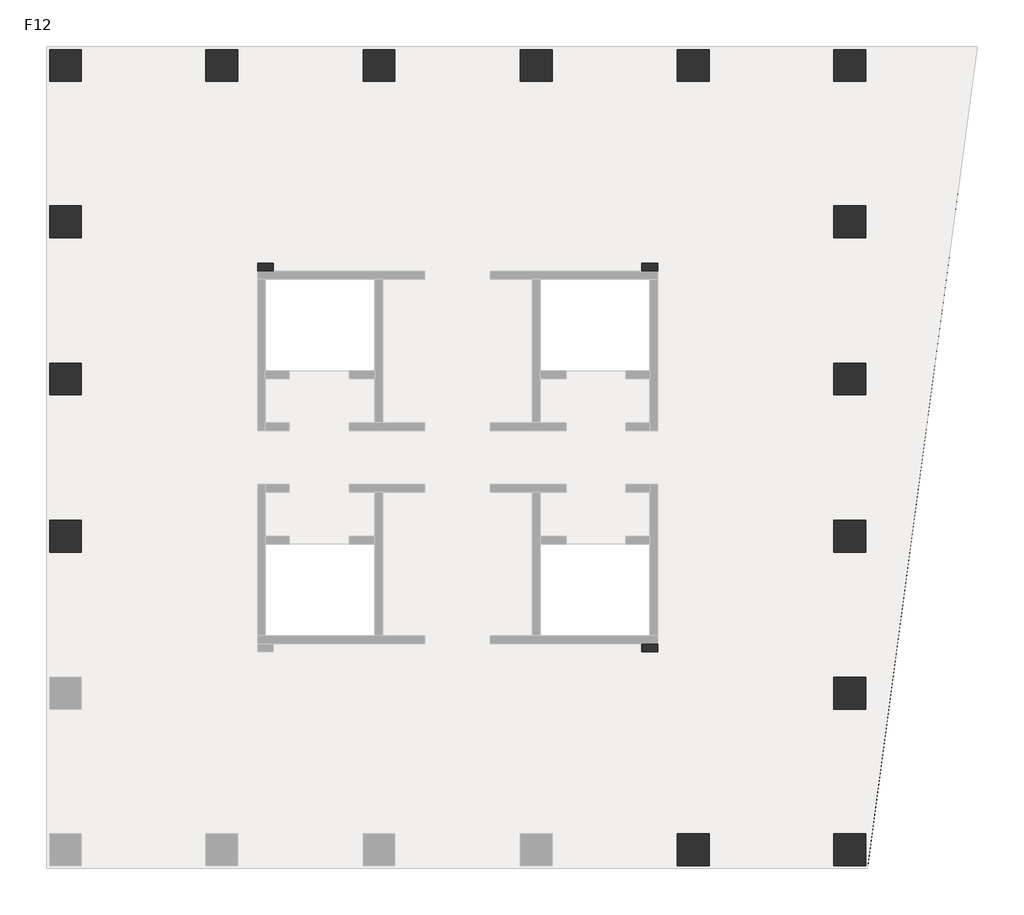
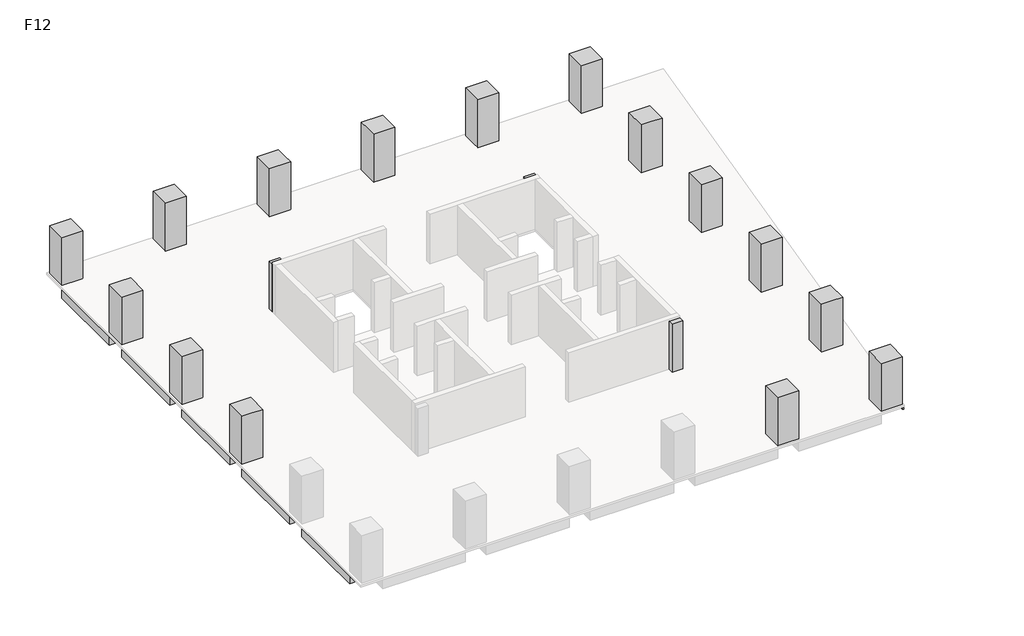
# One storey, part 2 of 2: 21 beams, 18 columns.
"""IFC4 building model written with IfcOpenShell, lengths in millimetres."""

import ifcopenshell
import ifcopenshell.guid

model = None  # the IFC model being written
_history = None  # IfcOwnerHistory: only IFC2X3 demands one
_inside = {}  # id of a spatial element -> (the spatial element, [elements in it])
_under = {}  # id of a project, library or spatial element -> (it, [spatial elements below it])
_declared = {}  # id of a project -> (the project, [libraries it declares])
_typed = {}  # id of a type object -> (the type object, [elements of that type])
_made_of = {}  # id of a material, layer set ... -> (it, [elements and type objects made of it])


def new_model(schema):
    """Start an empty IFC model of exactly this schema.

    Asked for "IFC4X3", IfcOpenShell would pick the latest addendum, in which some entities
    have other attributes; the version numbers below select the first issue.
    IFC2X3 requires an IfcOwnerHistory on every rooted entity: one is made here for all.
    """
    global model, _history
    if schema == "IFC4X3":
        model = ifcopenshell.file(schema_version=(4, 3, 0, 0))
    else:
        model = ifcopenshell.file(schema=schema)
    _inside.clear()
    _under.clear()
    _declared.clear()
    _typed.clear()
    _made_of.clear()
    _history = None
    if model.schema == "IFC2X3":
        org = make("IfcOrganization", Name="unknown")
        user = make(
            "IfcPersonAndOrganization",
            ThePerson=make("IfcPerson", FamilyName="unknown"),
            TheOrganization=org,
        )
        app = make(
            "IfcApplication",
            ApplicationDeveloper=org,
            Version="unknown",
            ApplicationFullName="unknown",
            ApplicationIdentifier="unknown",
        )
        _history = make(
            "IfcOwnerHistory",
            OwningUser=user,
            OwningApplication=app,
            ChangeAction="ADDED",
            CreationDate=0,
        )
    return model


def make(cls, **values):
    """One entity of the class cls with the attributes given. An attribute that is None is left unset."""
    return model.create_entity(
        cls, **{name: value for name, value in values.items() if value is not None}
    )


def rooted(cls, **values):
    """An entity with a GlobalId (a new one), such as an element, a storey or a relation."""
    return make(cls, GlobalId=ifcopenshell.guid.new(), OwnerHistory=_history, **values)


def si_unit(unit_type, name, prefix=None):
    """IfcSIUnit, for example si_unit("LENGTHUNIT", "METRE", prefix="MILLI")."""
    return make("IfcSIUnit", UnitType=unit_type, Prefix=prefix, Name=name)


def assignment(units):
    """IfcUnitAssignment: the units of a project."""
    return None if units is None else make("IfcUnitAssignment", Units=units)


def point(xyz):
    """IfcCartesianPoint."""
    return None if xyz is None else make("IfcCartesianPoint", Coordinates=xyz)


def direction(xyz):
    """IfcDirection."""
    return None if xyz is None else make("IfcDirection", DirectionRatios=xyz)


def frame(location, z_axis=None, x_axis=None):
    """IfcAxis2Placement3D, a coordinate frame: its origin and axes. An axis left out is left unset."""
    return make(
        "IfcAxis2Placement3D",
        Location=point(location),
        Axis=direction(z_axis),
        RefDirection=direction(x_axis),
    )


def origin():
    """The frame at (0, 0, 0) with its axes left unset."""
    return frame((0.0, 0.0, 0.0))


def place(relative_to, where):
    """IfcLocalPlacement: puts the frame where relative to a parent placement (None: the world)."""
    return make(
        "IfcLocalPlacement", PlacementRelTo=relative_to, RelativePlacement=where
    )


def context(
    kind, dimensions, precision=None, world=None, true_north=None, identifier=None
):
    """IfcGeometricRepresentationContext, for example the 3D "Model" context."""
    return make(
        "IfcGeometricRepresentationContext",
        ContextIdentifier=identifier,
        ContextType=kind,
        CoordinateSpaceDimension=dimensions,
        Precision=precision,
        WorldCoordinateSystem=world,
        TrueNorth=true_north,
    )


def project(units=None, contexts=None):
    """IfcProject with its units and contexts."""
    return rooted(
        "IfcProject",
        Name="project",
        RepresentationContexts=contexts,
        UnitsInContext=assignment(units),
    )


def spatial(cls, under=None, at=None, **own):
    """A site, building, storey or space (cls), placed at a placement, below another one or the project."""
    s = rooted(cls, ObjectPlacement=at, **own)
    if under is not None:
        _under.setdefault(under.id(), (under, []))[1].append(s)
    return s


def polyline(points):
    """IfcPolyline through the points."""
    return make("IfcPolyline", Points=[point(p) for p in points])


def outline(outer, holes=None, kind="AREA"):
    """IfcArbitraryClosedProfileDef: a profile drawn as a closed curve; with holes, ...WithVoids."""
    if holes is None:
        return make("IfcArbitraryClosedProfileDef", ProfileType=kind, OuterCurve=outer)
    return make(
        "IfcArbitraryProfileDefWithVoids",
        ProfileType=kind,
        OuterCurve=outer,
        InnerCurves=holes,
    )


def extrude(swept, where, along, depth):
    """IfcExtrudedAreaSolid: the profile swept, set in the frame where, extruded along a direction by depth."""
    return make(
        "IfcExtrudedAreaSolid",
        SweptArea=swept,
        Position=where,
        ExtrudedDirection=direction(along),
        Depth=depth,
    )


def faces_of(points, faces, orient=None, outer=None):
    """IfcFace entities. A face is a list of loops; a loop is a list of indices into points, from 0.

    orient and outer hold one flag for each loop. By default every Orientation is true, the
    first loop of a face is its IfcFaceOuterBound and the others are IfcFaceBound.
    """
    made = []
    for i, loops in enumerate(faces):
        bounds = []
        for j, loop in enumerate(loops):
            is_outer = j == 0 if outer is None else outer[i][j]
            bounds.append(
                make(
                    "IfcFaceOuterBound" if is_outer else "IfcFaceBound",
                    Bound=make("IfcPolyLoop", Polygon=[points[k] for k in loop]),
                    Orientation=True if orient is None else orient[i][j],
                )
            )
        made.append(make("IfcFace", Bounds=bounds))
    return made


def faceted_brep(points, faces, orient=None, outer=None, voids=None):
    """IfcFacetedBrep: a solid bounded by flat faces; with voids (closed shells), ...WithVoids."""
    shared = [point(p) for p in points]
    hull = make("IfcClosedShell", CfsFaces=faces_of(shared, faces, orient, outer))
    if voids is None:
        return make("IfcFacetedBrep", Outer=hull)
    return make(
        "IfcFacetedBrepWithVoids",
        Outer=hull,
        Voids=[
            make(cls, CfsFaces=faces_of(shared, fs, o, b)) for cls, fs, o, b in voids
        ],
    )


def shape(context_of_items, identifier, shape_type, items):
    """IfcShapeRepresentation: the items that make up one representation, for example the "Body"."""
    return make(
        "IfcShapeRepresentation",
        ContextOfItems=context_of_items,
        RepresentationIdentifier=identifier,
        RepresentationType=shape_type,
        Items=items,
    )


def made_of(thing, what):
    """Note that an element or type object is made of a material, layer set ...; save() writes the relation."""
    if what is not None:
        _made_of.setdefault(what.id(), (what, []))[1].append(thing)
    return thing


def element(
    cls,
    number,
    at=None,
    inside=None,
    cuts=None,
    type_object=None,
    material=None,
    context=None,
    identifier="Body",
    shape_type=None,
    held_by="IfcProductDefinitionShape",
    body=None,
    shapes=None,
    **own,
):
    """One element of the class cls, such as IfcWall. Its Tag is "e" and its number.

    at: its placement. inside: the storey or other place that contains it. cuts: it is an
    opening in that element (IfcRelVoidsElement). A single representation is given by context,
    identifier, shape_type and body (its items); several are given by shapes. held_by: the class
    of the entity that holds the representations. save() writes the other relations.
    """
    e = rooted(cls, Tag="e%d" % number, ObjectPlacement=at, **own)
    if body is not None:
        shapes = [shape(context, identifier, shape_type, body)]
    if shapes is not None:
        e.Representation = make(held_by, Representations=shapes)
    if inside is not None:
        _inside.setdefault(inside.id(), (inside, []))[1].append(e)
    if cuts is not None:
        rooted(
            "IfcRelVoidsElement", RelatingBuildingElement=cuts, RelatedOpeningElement=e
        )
    if type_object is not None:
        _typed.setdefault(type_object.id(), (type_object, []))[1].append(e)
    return made_of(e, material)


def aggregate(whole, parts):
    """IfcRelAggregates: a whole, such as a stair, and the parts it consists of."""
    return rooted("IfcRelAggregates", RelatingObject=whole, RelatedObjects=parts)


def save(model, path):
    """Write the relations noted so far, then the file.

    IfcRelAggregates (storeys below a building ...), IfcRelContainedInSpatialStructure (elements
    in a storey), IfcRelDefinesByType, IfcRelAssociatesMaterial and IfcRelDeclares: one each for
    every whole, place, type object, material and project.
    """
    for whole, parts in _under.values():
        aggregate(whole, parts)
    for where, things in _inside.values():
        rooted(
            "IfcRelContainedInSpatialStructure",
            RelatedElements=things,
            RelatingStructure=where,
        )
    for kind, things in _typed.values():
        rooted("IfcRelDefinesByType", RelatedObjects=things, RelatingType=kind)
    for what, things in _made_of.values():
        rooted("IfcRelAssociatesMaterial", RelatedObjects=things, RelatingMaterial=what)
    for by, libraries in _declared.values():
        rooted("IfcRelDeclares", RelatingContext=by, RelatedDefinitions=libraries)
    model.write(path)


model = new_model("IFC4")

# Units and contexts
model_context = context("Model", 3, world=origin())
ifc_project = project(units=[si_unit("LENGTHUNIT", "METRE", prefix="MILLI")], contexts=[model_context])

# Site, building, storey
site = spatial("IfcSite", under=ifc_project)
building = spatial("IfcBuilding", under=site)
storey = spatial("IfcBuildingStorey", under=building, Name="F12", Elevation=48000.0)

# Beams
placement = place(None, origin())
element("IfcBeam", 1, ObjectType="混凝土 - 矩形梁 : KL(5)-800x1000", at=placement, inside=storey, context=model_context, shape_type="SweptSolid", body=[
    extrude(outline(polyline([(25327.3257831, 27051.0498658), (25327.3257831, 26251.0498658), (19077.3257831, 26251.0498658), (19077.3257831, 27051.0498658), (25327.3257831, 27051.0498658)])), frame((0.0, 0.0, 47000.0), z_axis=(0.0, 0.0, 1.0), x_axis=(1.0, 0.0, 0.0)), (0.0, 0.0, 1.0), 840.0),
    extrude(outline(polyline([(-12472.6742169, 26251.0498658), (-12472.6742169, 27051.0498658), (-6222.6742169, 27051.0498658), (-6222.6742169, 26251.0498658), (-12472.6742169, 26251.0498658)])), frame((0.0, 0.0, 47000.0), z_axis=(0.0, 0.0, 1.0), x_axis=(1.0, 0.0, 0.0)), (0.0, 0.0, 1.0), 840.0),
    extrude(outline(polyline([(-4622.6742169, 26251.0498658), (-4622.6742169, 27051.0498658), (1677.3257831, 27051.0498658), (1677.3257831, 26251.0498658), (-4622.6742169, 26251.0498658)])), frame((0.0, 0.0, 47000.0), z_axis=(0.0, 0.0, 1.0), x_axis=(1.0, 0.0, 0.0)), (0.0, 0.0, 1.0), 840.0),
    extrude(outline(polyline([(3277.3257831, 26251.0498658), (3277.3257831, 27051.0498658), (9577.3257831, 27051.0498658), (9577.3257831, 26251.0498658), (3277.3257831, 26251.0498658)])), frame((0.0, 0.0, 47000.0), z_axis=(0.0, 0.0, 1.0), x_axis=(1.0, 0.0, 0.0)), (0.0, 0.0, 1.0), 840.0),
    extrude(outline(polyline([(11177.3257831, 26251.0498658), (11177.3257831, 27051.0498658), (17477.3257831, 27051.0498658), (17477.3257831, 26251.0498658), (11177.3257831, 26251.0498658)])), frame((0.0, 0.0, 47000.0), z_axis=(0.0, 0.0, 1.0), x_axis=(1.0, 0.0, 0.0)), (0.0, 0.0, 1.0), 840.0),
])
element("IfcBeam", 2, ObjectType="混凝土 - 矩形梁 : KL(5)-800x1000", at=placement, inside=storey, context=model_context, shape_type="Brep", body=[
    faceted_brep([(26927.3257831, 26251.0498658, 47000.0), (32422.0087099, 26251.0498658, 47000.0), (32422.0087099, 26251.0498658, 47840.0), (32018.4257091, 26251.0498658, 47840.0), (26927.3257831, 26251.0498658, 47840.0), (32422.0087099, 27051.0498658, 47000.0), (26927.3257831, 27051.0498658, 47000.0), (26927.3257831, 27051.0498658, 47840.0), (32422.0087099, 27051.0498658, 47840.0)], [[[0, 1, 2, 3, 4]], [[5, 1, 0, 6]], [[5, 6, 7, 8]], [[1, 5, 8, 2]], [[6, 0, 4, 7]], [[4, 3, 2, 8, 7]]]),
])
element("IfcBeam", 3, ObjectType="混凝土 - 矩形梁 : KL(5)-800x1000", at=placement, inside=storey, context=model_context, shape_type="Brep", body=[
    faceted_brep([(26127.3257831, -6098.9501342, 47000.0), (26127.3257831, -12348.9501342, 47000.0), (26127.3257831, -12348.9501342, 47840.0), (26127.3257831, -6098.9501342, 47840.0), (26927.3257831, -12348.9501342, 47000.0), (26927.3257831, -6098.9501342, 47000.0), (26927.3257831, -6098.9501342, 47840.0), (26927.3257831, -11700.7859463, 47840.0), (26927.3257831, -12348.9501342, 47840.0)], [[[0, 1, 2, 3]], [[4, 1, 0, 5]], [[4, 5, 6, 7, 8]], [[1, 4, 8, 2]], [[5, 0, 3, 6]], [[3, 2, 8, 7, 6]]]),
    faceted_brep([(26927.3257831, 25451.0498658, 47000.0), (26127.3257831, 25451.0498658, 47000.0), (26127.3257831, 25451.0498658, 47840.0), (26927.3257831, 25451.0498658, 47840.0), (26127.3257831, 19201.0498658, 47000.0), (26927.3257831, 19201.0498658, 47000.0), (26927.3257831, 19201.0498658, 47840.0), (26127.3257831, 19201.0498658, 47840.0)], [[[0, 1, 2, 3]], [[4, 5, 6, 7]], [[1, 4, 7, 2]], [[1, 0, 5, 4]], [[5, 0, 3, 6]], [[3, 2, 7, 6]]]),
    faceted_brep([(26927.3257831, 17601.0498658, 47000.0), (26127.3257831, 17601.0498658, 47000.0), (26127.3257831, 17601.0498658, 47840.0), (26927.3257831, 17601.0498658, 47840.0), (26127.3257831, 11301.0498658, 47000.0), (26927.3257831, 11301.0498658, 47000.0), (26927.3257831, 11301.0498658, 47840.0), (26127.3257831, 11301.0498658, 47840.0)], [[[0, 1, 2, 3]], [[4, 5, 6, 7]], [[1, 4, 7, 2]], [[1, 0, 5, 4]], [[5, 0, 3, 6]], [[3, 2, 7, 6]]]),
    faceted_brep([(26927.3257831, 9701.0498658, 47000.0), (26127.3257831, 9701.0498658, 47000.0), (26127.3257831, 9701.0498658, 47840.0), (26927.3257831, 9701.0498658, 47840.0), (26127.3257831, 3401.0498658, 47000.0), (26927.3257831, 3401.0498658, 47000.0), (26927.3257831, 3401.0498658, 47840.0), (26127.3257831, 3401.0498658, 47840.0)], [[[0, 1, 2, 3]], [[4, 5, 6, 7]], [[1, 4, 7, 2]], [[1, 0, 5, 4]], [[5, 0, 3, 6]], [[3, 2, 7, 6]]]),
    faceted_brep([(26927.3257831, 1801.0498658, 47000.0), (26127.3257831, 1801.0498658, 47000.0), (26127.3257831, 1801.0498658, 47840.0), (26927.3257831, 1801.0498658, 47840.0), (26127.3257831, -4498.9501342, 47000.0), (26927.3257831, -4498.9501342, 47000.0), (26927.3257831, -4498.9501342, 47840.0), (26127.3257831, -4498.9501342, 47840.0)], [[[0, 1, 2, 3]], [[4, 5, 6, 7]], [[1, 4, 7, 2]], [[1, 0, 5, 4]], [[5, 0, 3, 6]], [[3, 2, 7, 6]]]),
])
element("IfcBeam", 4, ObjectType="混凝土 - 矩形梁 : KL(5)-800x1000", at=placement, inside=storey, context=model_context, shape_type="SweptSolid", body=[
    extrude(outline(polyline([(-14072.6742169, 25451.0498658), (-13272.6742169, 25451.0498658), (-13272.6742169, 19201.0498658), (-14072.6742169, 19201.0498658), (-14072.6742169, 25451.0498658)])), frame((0.0, 0.0, 47000.0), z_axis=(0.0, 0.0, 1.0), x_axis=(1.0, 0.0, 0.0)), (0.0, 0.0, 1.0), 840.0),
    extrude(outline(polyline([(-13272.6742169, -12348.9501342), (-14072.6742169, -12348.9501342), (-14072.6742169, -6098.9501342), (-13272.6742169, -6098.9501342), (-13272.6742169, -12348.9501342)])), frame((0.0, 0.0, 47000.0), z_axis=(0.0, 0.0, 1.0), x_axis=(1.0, 0.0, 0.0)), (0.0, 0.0, 1.0), 840.0),
    extrude(outline(polyline([(-14072.6742169, 17601.0498658), (-13272.6742169, 17601.0498658), (-13272.6742169, 11301.0498658), (-14072.6742169, 11301.0498658), (-14072.6742169, 17601.0498658)])), frame((0.0, 0.0, 47000.0), z_axis=(0.0, 0.0, 1.0), x_axis=(1.0, 0.0, 0.0)), (0.0, 0.0, 1.0), 840.0),
    extrude(outline(polyline([(-14072.6742169, 9701.0498658), (-13272.6742169, 9701.0498658), (-13272.6742169, 3401.0498658), (-14072.6742169, 3401.0498658), (-14072.6742169, 9701.0498658)])), frame((0.0, 0.0, 47000.0), z_axis=(0.0, 0.0, 1.0), x_axis=(1.0, 0.0, 0.0)), (0.0, 0.0, 1.0), 840.0),
    extrude(outline(polyline([(-14072.6742169, 1801.0498658), (-13272.6742169, 1801.0498658), (-13272.6742169, -4498.9501342), (-14072.6742169, -4498.9501342), (-14072.6742169, 1801.0498658)])), frame((0.0, 0.0, 47000.0), z_axis=(0.0, 0.0, 1.0), x_axis=(1.0, 0.0, 0.0)), (0.0, 0.0, 1.0), 840.0),
])
element("IfcBeam", 5, ObjectType="混凝土 - 矩形梁 : L1-800x500", at=placement, inside=storey, context=model_context, shape_type="SweptSolid", body=[
    extrude(outline(polyline([(-12472.6742169, 2201.0498658), (-12472.6742169, 3001.0498658), (-3622.6742169, 3001.0498658), (-3622.6742169, 2201.0498658), (-12472.6742169, 2201.0498658)])), frame((0.0, 0.0, 47500.0), z_axis=(0.0, 0.0, 1.0), x_axis=(1.0, 0.0, 0.0)), (0.0, 0.0, 1.0), 340.0),
])
element("IfcBeam", 6, ObjectType="混凝土 - 矩形梁 : L1-800x500", at=placement, inside=storey, context=model_context, shape_type="SweptSolid", body=[
    extrude(outline(polyline([(-12472.6742169, 10101.0498658), (-12472.6742169, 10901.0498658), (-3622.6742169, 10901.0498658), (-3622.6742169, 10101.0498658), (-12472.6742169, 10101.0498658)])), frame((0.0, 0.0, 47500.0), z_axis=(0.0, 0.0, 1.0), x_axis=(1.0, 0.0, 0.0)), (0.0, 0.0, 1.0), 340.0),
])
element("IfcBeam", 7, ObjectType="混凝土 - 矩形梁 : L1-800x500", at=placement, inside=storey, context=model_context, shape_type="Brep", body=[
    faceted_brep([(-12472.6742169, 17789.85471, 47500.0), (-3622.6742169, 15588.3621727, 47500.0), (-3622.6742169, 15588.3621727, 47840.0), (-12472.6742169, 17789.85471, 47840.0), (-3173.6696907, 16301.0498658, 47500.0), (-3622.6742169, 16301.0498658, 47500.0), (-3622.6742169, 15901.0498658, 47500.0), (-12472.6742169, 18614.2350714, 47500.0), (-3746.9473979, 16443.6562607, 47500.0), (-12472.6742169, 18614.2350714, 47840.0), (-3746.9473979, 16443.6562607, 47840.0), (-3173.6696907, 16301.0498658, 47840.0), (-3622.6742169, 16301.0498658, 47840.0)], [[[0, 1, 2, 3]], [[4, 5, 6, 1, 0, 7, 8]], [[4, 8, 7, 9, 10, 11]], [[6, 5, 12, 2, 1]], [[5, 4, 11, 12]], [[7, 0, 3, 9]], [[3, 2, 12, 11, 10, 9]]]),
])
element("IfcBeam", 8, ObjectType="混凝土 - 矩形梁 : L1-800x500", at=placement, inside=storey, context=model_context, shape_type="SweptSolid", body=[
    extrude(outline(polyline([(-3173.6696907, 16301.0498658), (-3746.9473979, 16443.6562607), (-5661.5624638, 25451.0498658), (-4843.6893517, 25451.0498658), (-2898.7618154, 16301.0498658), (-3173.6696907, 16301.0498658)])), frame((0.0, 0.0, 47500.0), z_axis=(0.0, 0.0, 1.0), x_axis=(1.0, 0.0, 0.0)), (0.0, 0.0, 1.0), 340.0),
])
element("IfcBeam", 9, ObjectType="混凝土 - 矩形梁 : L1-800x500", at=placement, inside=storey, context=model_context, shape_type="SweptSolid", body=[
    extrude(outline(polyline([(2077.3257831, 25451.0498658), (2877.3257831, 25451.0498658), (2877.3257831, 15901.0498658), (2077.3257831, 15901.0498658), (2077.3257831, 25451.0498658)])), frame((0.0, 0.0, 47500.0), z_axis=(0.0, 0.0, 1.0), x_axis=(1.0, 0.0, 0.0)), (0.0, 0.0, 1.0), 340.0),
])
element("IfcBeam", 10, ObjectType="混凝土 - 矩形梁 : L1-800x500", at=placement, inside=storey, context=model_context, shape_type="SweptSolid", body=[
    extrude(outline(polyline([(9977.3257831, 25451.0498658), (10777.3257831, 25451.0498658), (10777.3257831, 15901.0498658), (9977.3257831, 15901.0498658), (9977.3257831, 25451.0498658)])), frame((0.0, 0.0, 47500.0), z_axis=(0.0, 0.0, 1.0), x_axis=(1.0, 0.0, 0.0)), (0.0, 0.0, 1.0), 340.0),
])
element("IfcBeam", 11, ObjectType="混凝土 - 矩形梁 : L1-800x500", at=placement, inside=storey, context=model_context, shape_type="Brep", body=[
    faceted_brep([(25327.3257831, -4687.7549784, 47500.0), (16477.3257831, -2486.2624411, 47500.0), (16477.3257831, -2486.2624411, 47840.0), (25327.3257831, -4687.7549784, 47840.0), (16028.3212569, -3198.9501342, 47500.0), (16477.3257831, -3198.9501342, 47500.0), (16477.3257831, -2798.9501342, 47500.0), (25327.3257831, -5512.1353397, 47500.0), (16601.5989641, -3341.556529, 47500.0), (25327.3257831, -5512.1353397, 47840.0), (16601.5989641, -3341.556529, 47840.0), (16028.3212569, -3198.9501342, 47840.0), (16477.3257831, -3198.9501342, 47840.0)], [[[0, 1, 2, 3]], [[4, 5, 6, 1, 0, 7, 8]], [[4, 8, 7, 9, 10, 11]], [[6, 5, 12, 2, 1]], [[5, 4, 11, 12]], [[7, 0, 3, 9]], [[3, 2, 12, 11, 10, 9]]]),
])
element("IfcBeam", 12, ObjectType="混凝土 - 矩形梁 : L1-800x500", at=placement, inside=storey, context=model_context, shape_type="SweptSolid", body=[
    extrude(outline(polyline([(16028.3212569, -3198.9501342), (16601.5989641, -3341.556529), (18516.21403, -12348.9501342), (17698.3409179, -12348.9501342), (15753.4133817, -3198.9501342), (16028.3212569, -3198.9501342)])), frame((0.0, 0.0, 47500.0), z_axis=(0.0, 0.0, 1.0), x_axis=(1.0, 0.0, 0.0)), (0.0, 0.0, 1.0), 340.0),
])
element("IfcBeam", 13, ObjectType="混凝土 - 矩形梁 : L1-800x500", at=placement, inside=storey, context=model_context, shape_type="SweptSolid", body=[
    extrude(outline(polyline([(25327.3257831, 3001.0498658), (25327.3257831, 2201.0498658), (16477.3257831, 2201.0498658), (16477.3257831, 3001.0498658), (25327.3257831, 3001.0498658)])), frame((0.0, 0.0, 47500.0), z_axis=(0.0, 0.0, 1.0), x_axis=(1.0, 0.0, 0.0)), (0.0, 0.0, 1.0), 340.0),
])
element("IfcBeam", 14, ObjectType="混凝土 - 矩形梁 : L1-800x500", at=placement, inside=storey, context=model_context, shape_type="SweptSolid", body=[
    extrude(outline(polyline([(25327.3257831, 10901.0498658), (25327.3257831, 10101.0498658), (16477.3257831, 10101.0498658), (16477.3257831, 10901.0498658), (25327.3257831, 10901.0498658)])), frame((0.0, 0.0, 47500.0), z_axis=(0.0, 0.0, 1.0), x_axis=(1.0, 0.0, 0.0)), (0.0, 0.0, 1.0), 340.0),
])
element("IfcBeam", 15, ObjectType="混凝土 - 矩形梁 : L1-800x500", at=placement, inside=storey, context=model_context, shape_type="Brep", body=[
    faceted_brep([(25327.3257831, 18610.6867312, 47500.0), (16590.8993897, 16393.3196262, 47500.0), (16227.3565337, 16301.0498658, 47500.0), (16227.3565337, 16301.0498658, 47840.0), (16590.8993897, 16393.3196262, 47840.0), (25327.3257831, 18610.6867312, 47840.0), (16477.3257831, 16301.0498658, 47500.0), (25327.3257831, 17785.3216299, 47500.0), (16477.3257831, 15539.1287365, 47500.0), (16477.3257831, 15901.0498658, 47500.0), (25327.3257831, 17785.3216299, 47840.0), (16477.3257831, 15539.1287365, 47840.0), (16477.3257831, 16301.0498658, 47840.0)], [[[0, 1, 2, 3, 4, 5]], [[6, 2, 1, 0, 7, 8, 9]], [[8, 7, 10, 11]], [[9, 8, 11, 12, 6]], [[2, 6, 12, 3]], [[7, 0, 5, 10]], [[5, 4, 3, 12, 11, 10]]]),
])
element("IfcBeam", 16, ObjectType="混凝土 - 矩形梁 : L1-800x500", at=placement, inside=storey, context=model_context, shape_type="SweptSolid", body=[
    extrude(outline(polyline([(16590.8993897, 16393.3196262), (16227.3565337, 16301.0498658), (15753.4133817, 16301.0498658), (17698.3409179, 25451.0498658), (18516.21403, 25451.0498658), (16590.8993897, 16393.3196262)])), frame((0.0, 0.0, 47500.0), z_axis=(0.0, 0.0, 1.0), x_axis=(1.0, 0.0, 0.0)), (0.0, 0.0, 1.0), 340.0),
])
element("IfcBeam", 17, ObjectType="混凝土 - 矩形梁 : L2-400x400", at=placement, inside=storey, context=model_context, shape_type="Brep", body=[
    faceted_brep([(32422.0087099, 26251.0498658, 47600.0), (27029.3257831, -13948.9501342, 47600.0), (26927.3257831, -13935.2672073, 47600.0), (26927.3257831, -11700.7859463, 47600.0), (27759.2793677, -5498.9501342, 47600.0), (27812.9379042, -5098.9501342, 47600.0), (28819.0354652, 2401.0498658, 47600.0), (28872.6940018, 2801.0498658, 47600.0), (29878.7915628, 10301.0498658, 47600.0), (29932.4500994, 10701.0498658, 47600.0), (30938.5476603, 18201.0498658, 47600.0), (30992.2061969, 18601.0498658, 47600.0), (32018.4257091, 26251.0498658, 47600.0), (32422.0087099, 26251.0498658, 47840.0), (27029.3257831, -13948.9501342, 47840.0), (32018.4257091, 26251.0498658, 47840.0), (26927.3257831, -13935.2672073, 47840.0), (26927.3257831, -12348.9501342, 47840.0), (26927.3257831, -11700.7859463, 47840.0), (27759.2793677, -5498.9501342, 47840.0), (27812.9379042, -5098.9501342, 47840.0), (28819.0354652, 2401.0498658, 47840.0), (28872.6940018, 2801.0498658, 47840.0), (29878.7915628, 10301.0498658, 47840.0), (29932.4500994, 10701.0498658, 47840.0), (30938.5476603, 18201.0498658, 47840.0), (30992.2061969, 18601.0498658, 47840.0)], [[[0, 1, 2, 3, 4, 5, 6, 7, 8, 9, 10, 11, 12]], [[1, 0, 13, 14]], [[0, 12, 15, 13]], [[3, 2, 16, 17, 18]], [[12, 11, 10, 9, 8, 7, 6, 5, 4, 3, 18, 19, 20, 21, 22, 23, 24, 25, 26, 15]], [[2, 1, 14, 16]], [[14, 13, 15, 26, 25, 24, 23, 22, 21, 20, 19, 18, 17, 16]]]),
])
element("IfcBeam", 18, ObjectType="混凝土 - 矩形梁 : L2-400x400", at=placement, inside=storey, context=model_context, shape_type="SweptSolid", body=[
    extrude(outline(polyline([(30938.5476603, 18201.0498658), (26927.3257831, 18201.0498658), (26927.3257831, 18601.0498658), (30992.2061969, 18601.0498658), (30938.5476603, 18201.0498658)])), frame((0.0, 0.0, 47600.0), z_axis=(0.0, 0.0, 1.0), x_axis=(1.0, 0.0, 0.0)), (0.0, 0.0, 1.0), 240.0),
])
element("IfcBeam", 19, ObjectType="混凝土 - 矩形梁 : L2-400x400", at=placement, inside=storey, context=model_context, shape_type="SweptSolid", body=[
    extrude(outline(polyline([(29878.7915628, 10301.0498658), (26927.3257831, 10301.0498658), (26927.3257831, 10701.0498658), (29932.4500994, 10701.0498658), (29878.7915628, 10301.0498658)])), frame((0.0, 0.0, 47600.0), z_axis=(0.0, 0.0, 1.0), x_axis=(1.0, 0.0, 0.0)), (0.0, 0.0, 1.0), 240.0),
])
element("IfcBeam", 20, ObjectType="混凝土 - 矩形梁 : L2-400x400", at=placement, inside=storey, context=model_context, shape_type="SweptSolid", body=[
    extrude(outline(polyline([(28819.0354652, 2401.0498658), (26927.3257831, 2401.0498658), (26927.3257831, 2801.0498658), (28872.6940018, 2801.0498658), (28819.0354652, 2401.0498658)])), frame((0.0, 0.0, 47600.0), z_axis=(0.0, 0.0, 1.0), x_axis=(1.0, 0.0, 0.0)), (0.0, 0.0, 1.0), 240.0),
])
element("IfcBeam", 21, ObjectType="混凝土 - 矩形梁 : L2-400x400", at=placement, inside=storey, context=model_context, shape_type="SweptSolid", body=[
    extrude(outline(polyline([(27759.2793677, -5498.9501342), (26927.3257831, -5498.9501342), (26927.3257831, -5098.9501342), (27812.9379042, -5098.9501342), (27759.2793677, -5498.9501342)])), frame((0.0, 0.0, 47600.0), z_axis=(0.0, 0.0, 1.0), x_axis=(1.0, 0.0, 0.0)), (0.0, 0.0, 1.0), 240.0),
])

# Columns
element("IfcColumn", 22, ObjectType="混凝土 - 矩形 - 柱 : Z1-1600x1600", at=placement, inside=storey, context=model_context, shape_type="SweptSolid", body=[
    extrude(outline(polyline([(-12472.6742169, 27051.0498658), (-12472.6742169, 25451.0498658), (-14072.6742169, 25451.0498658), (-14072.6742169, 27051.0498658), (-12472.6742169, 27051.0498658)])), frame((0.0, 0.0, 48000.0), z_axis=(0.0, 0.0, 1.0), x_axis=(1.0, 0.0, 0.0)), (0.0, 0.0, 1.0), 3840.0),
])
element("IfcColumn", 23, ObjectType="混凝土 - 矩形 - 柱 : Z1-1600x1600", at=placement, inside=storey, context=model_context, shape_type="Brep", body=[
    faceted_brep([(-4622.6742169, 27051.0498658, 48000.0), (-4622.6742169, 25451.0498658, 48000.0), (-6222.6742169, 25451.0498658, 48000.0), (-6222.6742169, 27051.0498658, 48000.0), (-4622.6742169, 27051.0498658, 51000.0), (-4622.6742169, 27051.0498658, 51840.0), (-4622.6742169, 26251.0498658, 51840.0), (-4622.6742169, 25451.0498658, 51840.0), (-6222.6742169, 25451.0498658, 51840.0), (-6222.6742169, 26251.0498658, 51840.0), (-6222.6742169, 27051.0498658, 51840.0), (-6222.6742169, 27051.0498658, 51000.0)], [[[0, 1, 2, 3]], [[1, 0, 4, 5, 6, 7]], [[2, 1, 7, 8]], [[3, 2, 8, 9, 10, 11]], [[0, 3, 11, 10, 5, 4]], [[7, 6, 5, 10, 9, 8]]]),
])
element("IfcColumn", 24, ObjectType="混凝土 - 矩形 - 柱 : Z1-1600x1600", at=placement, inside=storey, context=model_context, shape_type="Brep", body=[
    faceted_brep([(-12472.6742169, 19201.0498658, 48000.0), (-12472.6742169, 17601.0498658, 48000.0), (-14072.6742169, 17601.0498658, 48000.0), (-14072.6742169, 19201.0498658, 48000.0), (-12472.6742169, 19201.0498658, 51840.0), (-12472.6742169, 17601.0498658, 51840.0), (-13272.6742169, 17601.0498658, 51840.0), (-14072.6742169, 17601.0498658, 51840.0), (-14072.6742169, 17601.0498658, 51000.0), (-14072.6742169, 19201.0498658, 51840.0), (-14072.6742169, 19201.0498658, 51000.0), (-13272.6742169, 19201.0498658, 51840.0)], [[[0, 1, 2, 3]], [[1, 0, 4, 5]], [[2, 1, 5, 6, 7, 8]], [[3, 2, 8, 7, 9, 10]], [[0, 3, 10, 9, 11, 4]], [[5, 4, 11, 9, 7, 6]]]),
])
element("IfcColumn", 25, ObjectType="混凝土 - 矩形 - 柱 : Z1-1600x1600", at=placement, inside=storey, context=model_context, shape_type="Brep", body=[
    faceted_brep([(-12472.6742169, 11301.0498658, 48000.0), (-12472.6742169, 9701.0498658, 48000.0), (-14072.6742169, 9701.0498658, 48000.0), (-14072.6742169, 11301.0498658, 48000.0), (-12472.6742169, 11301.0498658, 51840.0), (-12472.6742169, 9701.0498658, 51840.0), (-13272.6742169, 9701.0498658, 51840.0), (-14072.6742169, 9701.0498658, 51840.0), (-14072.6742169, 9701.0498658, 51000.0), (-14072.6742169, 11301.0498658, 51840.0), (-14072.6742169, 11301.0498658, 51000.0), (-13272.6742169, 11301.0498658, 51840.0)], [[[0, 1, 2, 3]], [[1, 0, 4, 5]], [[2, 1, 5, 6, 7, 8]], [[3, 2, 8, 7, 9, 10]], [[0, 3, 10, 9, 11, 4]], [[5, 4, 11, 9, 7, 6]]]),
])
element("IfcColumn", 26, ObjectType="混凝土 - 矩形 - 柱 : Z1-1600x1600", at=placement, inside=storey, context=model_context, shape_type="Brep", body=[
    faceted_brep([(-12472.6742169, 3401.0498658, 48000.0), (-12472.6742169, 1801.0498658, 48000.0), (-14072.6742169, 1801.0498658, 48000.0), (-14072.6742169, 3401.0498658, 48000.0), (-12472.6742169, 3401.0498658, 51840.0), (-12472.6742169, 1801.0498658, 51840.0), (-13272.6742169, 1801.0498658, 51840.0), (-14072.6742169, 1801.0498658, 51840.0), (-14072.6742169, 1801.0498658, 51000.0), (-14072.6742169, 3401.0498658, 51840.0), (-14072.6742169, 3401.0498658, 51000.0), (-13272.6742169, 3401.0498658, 51840.0)], [[[0, 1, 2, 3]], [[1, 0, 4, 5]], [[2, 1, 5, 6, 7, 8]], [[3, 2, 8, 7, 9, 10]], [[0, 3, 10, 9, 11, 4]], [[5, 4, 11, 9, 7, 6]]]),
])
element("IfcColumn", 27, ObjectType="混凝土 - 矩形 - 柱 : Z1-1600x1600", at=placement, inside=storey, context=model_context, shape_type="SweptSolid", body=[
    extrude(outline(polyline([(25327.3257831, 27051.0498658), (26927.3257831, 27051.0498658), (26927.3257831, 25451.0498658), (25327.3257831, 25451.0498658), (25327.3257831, 27051.0498658)])), frame((0.0, 0.0, 48000.0), z_axis=(0.0, 0.0, 1.0), x_axis=(1.0, 0.0, 0.0)), (0.0, 0.0, 1.0), 3840.0),
])
element("IfcColumn", 28, ObjectType="混凝土 - 矩形 - 柱 : Z1-1600x1600", at=placement, inside=storey, context=model_context, shape_type="Brep", body=[
    faceted_brep([(25327.3257831, 19201.0498658, 48000.0), (26927.3257831, 19201.0498658, 48000.0), (26927.3257831, 17601.0498658, 48000.0), (25327.3257831, 17601.0498658, 48000.0), (25327.3257831, 17601.0498658, 51840.0), (25327.3257831, 19201.0498658, 51840.0), (26927.3257831, 17601.0498658, 51000.0), (26927.3257831, 17601.0498658, 51840.0), (26127.3257831, 17601.0498658, 51840.0), (26927.3257831, 19201.0498658, 51000.0), (26927.3257831, 19201.0498658, 51840.0), (26127.3257831, 19201.0498658, 51840.0)], [[[0, 1, 2, 3]], [[0, 3, 4, 5]], [[3, 2, 6, 7, 8, 4]], [[2, 1, 9, 10, 7, 6]], [[1, 0, 5, 11, 10, 9]], [[5, 4, 8, 7, 10, 11]]]),
])
element("IfcColumn", 29, ObjectType="混凝土 - 矩形 - 柱 : Z1-1600x1600", at=placement, inside=storey, context=model_context, shape_type="Brep", body=[
    faceted_brep([(25327.3257831, 11301.0498658, 48000.0), (26927.3257831, 11301.0498658, 48000.0), (26927.3257831, 9701.0498658, 48000.0), (25327.3257831, 9701.0498658, 48000.0), (25327.3257831, 9701.0498658, 51840.0), (25327.3257831, 11301.0498658, 51840.0), (26927.3257831, 9701.0498658, 51000.0), (26927.3257831, 9701.0498658, 51840.0), (26127.3257831, 9701.0498658, 51840.0), (26927.3257831, 11301.0498658, 51000.0), (26927.3257831, 11301.0498658, 51840.0), (26127.3257831, 11301.0498658, 51840.0)], [[[0, 1, 2, 3]], [[0, 3, 4, 5]], [[3, 2, 6, 7, 8, 4]], [[2, 1, 9, 10, 7, 6]], [[1, 0, 5, 11, 10, 9]], [[5, 4, 8, 7, 10, 11]]]),
])
element("IfcColumn", 30, ObjectType="混凝土 - 矩形 - 柱 : Z1-1600x1600", at=placement, inside=storey, context=model_context, shape_type="Brep", body=[
    faceted_brep([(25327.3257831, 3401.0498658, 48000.0), (26927.3257831, 3401.0498658, 48000.0), (26927.3257831, 1801.0498658, 48000.0), (25327.3257831, 1801.0498658, 48000.0), (25327.3257831, 1801.0498658, 51840.0), (25327.3257831, 3401.0498658, 51840.0), (26927.3257831, 1801.0498658, 51000.0), (26927.3257831, 1801.0498658, 51840.0), (26127.3257831, 1801.0498658, 51840.0), (26927.3257831, 3401.0498658, 51000.0), (26927.3257831, 3401.0498658, 51840.0), (26127.3257831, 3401.0498658, 51840.0)], [[[0, 1, 2, 3]], [[0, 3, 4, 5]], [[3, 2, 6, 7, 8, 4]], [[2, 1, 9, 10, 7, 6]], [[1, 0, 5, 11, 10, 9]], [[5, 4, 8, 7, 10, 11]]]),
])
element("IfcColumn", 31, ObjectType="混凝土 - 矩形 - 柱 : Z1-1600x1600", at=placement, inside=storey, context=model_context, shape_type="Brep", body=[
    faceted_brep([(25327.3257831, -4498.9501342, 48000.0), (26927.3257831, -4498.9501342, 48000.0), (26927.3257831, -6098.9501342, 48000.0), (25327.3257831, -6098.9501342, 48000.0), (25327.3257831, -6098.9501342, 51840.0), (25327.3257831, -4498.9501342, 51840.0), (26927.3257831, -6098.9501342, 51000.0), (26927.3257831, -6098.9501342, 51840.0), (26127.3257831, -6098.9501342, 51840.0), (26927.3257831, -4498.9501342, 51000.0), (26927.3257831, -4498.9501342, 51840.0), (26127.3257831, -4498.9501342, 51840.0)], [[[0, 1, 2, 3]], [[0, 3, 4, 5]], [[3, 2, 6, 7, 8, 4]], [[2, 1, 9, 10, 7, 6]], [[1, 0, 5, 11, 10, 9]], [[5, 4, 8, 7, 10, 11]]]),
])
element("IfcColumn", 32, ObjectType="混凝土 - 矩形 - 柱 : Z1-1600x1600", at=placement, inside=storey, context=model_context, shape_type="SweptSolid", body=[
    extrude(outline(polyline([(25327.3257831, -12348.9501342), (26927.3257831, -12348.9501342), (26927.3257831, -13948.9501342), (25327.3257831, -13948.9501342), (25327.3257831, -12348.9501342)])), frame((0.0, 0.0, 48000.0), z_axis=(0.0, 0.0, 1.0), x_axis=(1.0, 0.0, 0.0)), (0.0, 0.0, 1.0), 3840.0),
])
element("IfcColumn", 33, ObjectType="混凝土 - 矩形 - 柱 : Z1-1600x1600", at=placement, inside=storey, context=model_context, shape_type="Brep", body=[
    faceted_brep([(3277.3257831, 27051.0498658, 48000.0), (3277.3257831, 25451.0498658, 48000.0), (1677.3257831, 25451.0498658, 48000.0), (1677.3257831, 27051.0498658, 48000.0), (3277.3257831, 27051.0498658, 51000.0), (3277.3257831, 27051.0498658, 51840.0), (3277.3257831, 26251.0498658, 51840.0), (3277.3257831, 25451.0498658, 51840.0), (1677.3257831, 25451.0498658, 51840.0), (1677.3257831, 26251.0498658, 51840.0), (1677.3257831, 27051.0498658, 51840.0), (1677.3257831, 27051.0498658, 51000.0)], [[[0, 1, 2, 3]], [[1, 0, 4, 5, 6, 7]], [[2, 1, 7, 8]], [[3, 2, 8, 9, 10, 11]], [[0, 3, 11, 10, 5, 4]], [[7, 6, 5, 10, 9, 8]]]),
])
element("IfcColumn", 34, ObjectType="混凝土 - 矩形 - 柱 : Z1-1600x1600", at=placement, inside=storey, context=model_context, shape_type="Brep", body=[
    faceted_brep([(11177.3257831, 27051.0498658, 48000.0), (11177.3257831, 25451.0498658, 48000.0), (9577.3257831, 25451.0498658, 48000.0), (9577.3257831, 27051.0498658, 48000.0), (11177.3257831, 27051.0498658, 51000.0), (11177.3257831, 27051.0498658, 51840.0), (11177.3257831, 26251.0498658, 51840.0), (11177.3257831, 25451.0498658, 51840.0), (9577.3257831, 25451.0498658, 51840.0), (9577.3257831, 26251.0498658, 51840.0), (9577.3257831, 27051.0498658, 51840.0), (9577.3257831, 27051.0498658, 51000.0)], [[[0, 1, 2, 3]], [[1, 0, 4, 5, 6, 7]], [[2, 1, 7, 8]], [[3, 2, 8, 9, 10, 11]], [[0, 3, 11, 10, 5, 4]], [[7, 6, 5, 10, 9, 8]]]),
])
element("IfcColumn", 35, ObjectType="混凝土 - 矩形 - 柱 : Z1-1600x1600", at=placement, inside=storey, context=model_context, shape_type="Brep", body=[
    faceted_brep([(19077.3257831, 27051.0498658, 48000.0), (19077.3257831, 25451.0498658, 48000.0), (17477.3257831, 25451.0498658, 48000.0), (17477.3257831, 27051.0498658, 48000.0), (19077.3257831, 27051.0498658, 51000.0), (19077.3257831, 27051.0498658, 51840.0), (19077.3257831, 26251.0498658, 51840.0), (19077.3257831, 25451.0498658, 51840.0), (17477.3257831, 25451.0498658, 51840.0), (17477.3257831, 26251.0498658, 51840.0), (17477.3257831, 27051.0498658, 51840.0), (17477.3257831, 27051.0498658, 51000.0)], [[[0, 1, 2, 3]], [[1, 0, 4, 5, 6, 7]], [[2, 1, 7, 8]], [[3, 2, 8, 9, 10, 11]], [[0, 3, 11, 10, 5, 4]], [[7, 6, 5, 10, 9, 8]]]),
])
element("IfcColumn", 36, ObjectType="混凝土 - 矩形 - 柱 : Z1-1600x1600", at=placement, inside=storey, context=model_context, shape_type="Brep", body=[
    faceted_brep([(19077.3257831, -12348.9501342, 48000.0), (19077.3257831, -13948.9501342, 48000.0), (17477.3257831, -13948.9501342, 48000.0), (17477.3257831, -12348.9501342, 48000.0), (19077.3257831, -12348.9501342, 51840.0), (19077.3257831, -13148.9501342, 51840.0), (19077.3257831, -13948.9501342, 51840.0), (19077.3257831, -13948.9501342, 51000.0), (17477.3257831, -13948.9501342, 51840.0), (17477.3257831, -13948.9501342, 51000.0), (17477.3257831, -13148.9501342, 51840.0), (17477.3257831, -12348.9501342, 51840.0)], [[[0, 1, 2, 3]], [[1, 0, 4, 5, 6, 7]], [[2, 1, 7, 6, 8, 9]], [[3, 2, 9, 8, 10, 11]], [[0, 3, 11, 4]], [[6, 5, 4, 11, 10, 8]]]),
])
element("IfcColumn", 37, ObjectType="混凝土 - 矩形 - 柱 : Z2-800x800", at=placement, inside=storey, context=model_context, shape_type="SweptSolid", body=[
    extrude(outline(polyline([(-3622.6742169, 16301.0498658), (-2822.6742169, 16301.0498658), (-2822.6742169, 15901.0498658), (-3622.6742169, 15901.0498658), (-3622.6742169, 16301.0498658)])), frame((0.0, 0.0, 48000.0), z_axis=(0.0, 0.0, 1.0), x_axis=(1.0, 0.0, 0.0)), (0.0, 0.0, 1.0), 3840.0),
])
element("IfcColumn", 38, ObjectType="混凝土 - 矩形 - 柱 : Z2-800x800", at=placement, inside=storey, context=model_context, shape_type="SweptSolid", body=[
    extrude(outline(polyline([(16477.3257831, -3198.9501342), (15677.3257831, -3198.9501342), (15677.3257831, -2798.9501342), (16477.3257831, -2798.9501342), (16477.3257831, -3198.9501342)])), frame((0.0, 0.0, 48000.0), z_axis=(0.0, 0.0, 1.0), x_axis=(1.0, 0.0, 0.0)), (0.0, 0.0, 1.0), 3840.0),
])
element("IfcColumn", 39, ObjectType="混凝土 - 矩形 - 柱 : Z2-800x800", at=placement, inside=storey, context=model_context, shape_type="SweptSolid", body=[
    extrude(outline(polyline([(15677.3257831, 16301.0498658), (16477.3257831, 16301.0498658), (16477.3257831, 15901.0498658), (15677.3257831, 15901.0498658), (15677.3257831, 16301.0498658)])), frame((0.0, 0.0, 48000.0), z_axis=(0.0, 0.0, 1.0), x_axis=(1.0, 0.0, 0.0)), (0.0, 0.0, 1.0), 3840.0),
])

save(model, "model.ifc")
